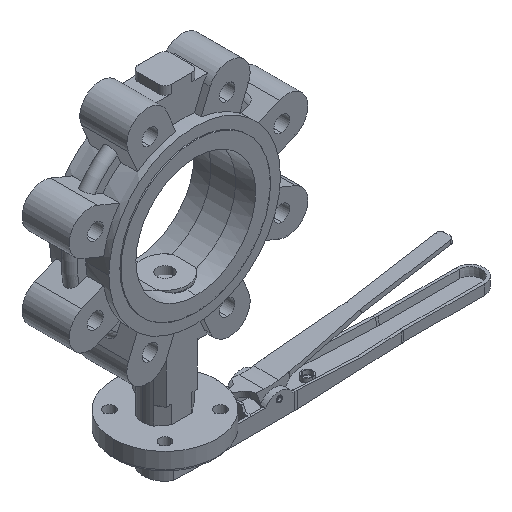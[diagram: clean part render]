
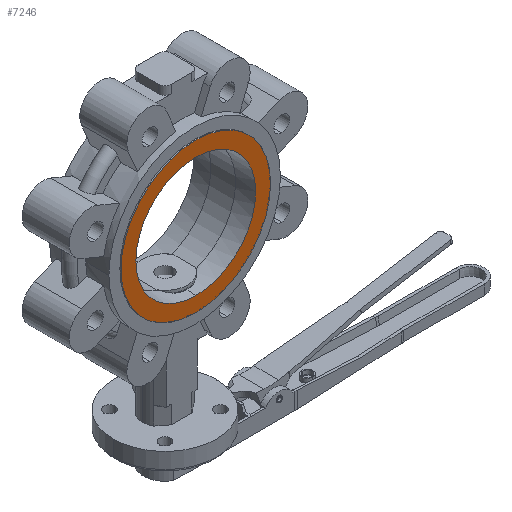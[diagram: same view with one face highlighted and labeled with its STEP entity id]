
A CAD part, isometric view. The second image highlights one B-rep face of the part: STEP entity #7246.
In plain terms, the highlighted planar face has unit normal (0, -1, 0).
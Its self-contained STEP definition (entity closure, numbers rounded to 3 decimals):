
#244 = ORIENTED_EDGE ( 'NONE', *, *, #6360, .T. ) ;
#443 = DIRECTION ( 'NONE',  ( 0., 1., 0. ) ) ;
#714 = DIRECTION ( 'NONE',  ( 0., 1., 0. ) ) ;
#1343 = PLANE ( 'NONE',  #3316 ) ;
#1452 = CARTESIAN_POINT ( 'NONE',  ( 53.444, -27.5, 0. ) ) ;
#1472 = VERTEX_POINT ( 'NONE', #1589 ) ;
#1483 = DIRECTION ( 'NONE',  ( 0., 0., 1. ) ) ;
#1589 = CARTESIAN_POINT ( 'NONE',  ( 0., -27.5, 53.444 ) ) ;
#1706 = VERTEX_POINT ( 'NONE', #11475 ) ;
#2238 = EDGE_CURVE ( 'NONE', #11419, #1472, #9943, .T. ) ;
#2415 = CARTESIAN_POINT ( 'NONE',  ( 0., -27.5, 0. ) ) ;
#2674 = EDGE_CURVE ( 'NONE', #1706, #4224, #4002, .T. ) ;
#2758 = CARTESIAN_POINT ( 'NONE',  ( 0., -27.5, 0. ) ) ;
#3054 = CIRCLE ( 'NONE', #11530, 66.7 ) ;
#3316 = AXIS2_PLACEMENT_3D ( 'NONE', #1452, #3383, #4177 ) ;
#3383 = DIRECTION ( 'NONE',  ( 0., 1., 0. ) ) ;
#3395 = CARTESIAN_POINT ( 'NONE',  ( 0., -27.5, 66.7 ) ) ;
#3924 = CARTESIAN_POINT ( 'NONE',  ( 0., -27.5, 0. ) ) ;
#4002 = CIRCLE ( 'NONE', #9732, 66.7 ) ;
#4083 = DIRECTION ( 'NONE',  ( 0., 0., 1. ) ) ;
#4177 = DIRECTION ( 'NONE',  ( 0., 0., 1. ) ) ;
#4224 = VERTEX_POINT ( 'NONE', #3395 ) ;
#4379 = EDGE_CURVE ( 'NONE', #4224, #1706, #3054, .T. ) ;
#4906 = DIRECTION ( 'NONE',  ( 0., 1., 0. ) ) ;
#5463 = DIRECTION ( 'NONE',  ( 0., 0., 1. ) ) ;
#5771 = DIRECTION ( 'NONE',  ( 0., 0., 1. ) ) ;
#5993 = AXIS2_PLACEMENT_3D ( 'NONE', #3924, #4906, #5771 ) ;
#6095 = FACE_OUTER_BOUND ( 'NONE', #8395, .T. ) ;
#6360 = EDGE_CURVE ( 'NONE', #1472, #11419, #10584, .T. ) ;
#6925 = EDGE_LOOP ( 'NONE', ( #6948, #244 ) ) ;
#6948 = ORIENTED_EDGE ( 'NONE', *, *, #2238, .T. ) ;
#7124 = DIRECTION ( 'NONE',  ( 0., 1., 0. ) ) ;
#7246 = ADVANCED_FACE ( 'NONE', ( #6095, #11665 ), #1343, .F. ) ;
#8286 = CARTESIAN_POINT ( 'NONE',  ( 0., -27.5, -53.444 ) ) ;
#8395 = EDGE_LOOP ( 'NONE', ( #10517, #9125 ) ) ;
#9125 = ORIENTED_EDGE ( 'NONE', *, *, #2674, .F. ) ;
#9732 = AXIS2_PLACEMENT_3D ( 'NONE', #11813, #7124, #4083 ) ;
#9943 = CIRCLE ( 'NONE', #5993, 53.444 ) ;
#10517 = ORIENTED_EDGE ( 'NONE', *, *, #4379, .F. ) ;
#10584 = CIRCLE ( 'NONE', #10784, 53.444 ) ;
#10784 = AXIS2_PLACEMENT_3D ( 'NONE', #2415, #443, #1483 ) ;
#11419 = VERTEX_POINT ( 'NONE', #8286 ) ;
#11475 = CARTESIAN_POINT ( 'NONE',  ( 0., -27.5, -66.7 ) ) ;
#11530 = AXIS2_PLACEMENT_3D ( 'NONE', #2758, #714, #5463 ) ;
#11665 = FACE_BOUND ( 'NONE', #6925, .T. ) ;
#11813 = CARTESIAN_POINT ( 'NONE',  ( 0., -27.5, 0. ) ) ;
